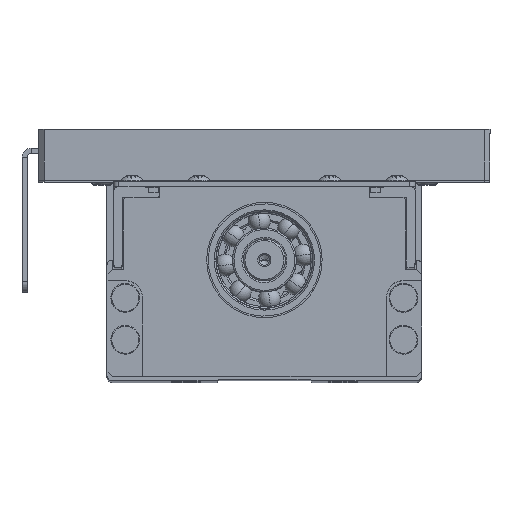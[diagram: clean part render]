
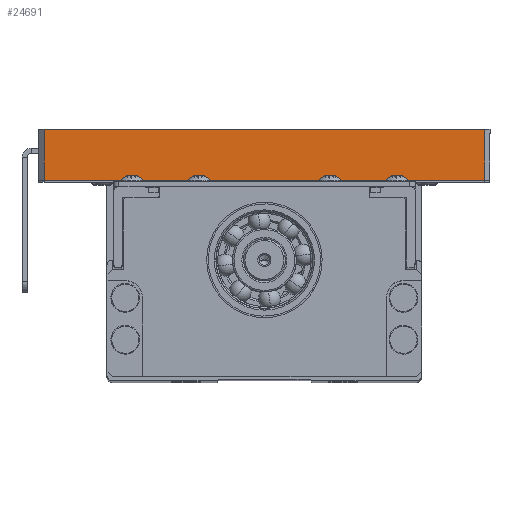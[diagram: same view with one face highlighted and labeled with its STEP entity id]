
A CAD part, top view. The second image highlights one B-rep face of the part: STEP entity #24691.
In plain terms, the highlighted planar face has unit normal (0, 0, 1).
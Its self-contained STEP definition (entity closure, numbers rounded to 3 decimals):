
#1 = PLANE ( 'NONE',  #92042 ) ;
#3241 = DIRECTION ( 'NONE',  ( 0., -1., 0. ) ) ;
#3656 = VECTOR ( 'NONE', #43587, 1000. ) ;
#9210 = LINE ( 'NONE', #82652, #42433 ) ;
#13910 = CARTESIAN_POINT ( 'NONE',  ( 43., 49., 40.75 ) ) ;
#14754 = ORIENTED_EDGE ( 'NONE', *, *, #68556, .T. ) ;
#14863 = EDGE_CURVE ( 'NONE', #35901, #75936, #54792, .T. ) ;
#22355 = FACE_OUTER_BOUND ( 'NONE', #45309, .T. ) ;
#24691 = ADVANCED_FACE ( 'NONE', ( #22355 ), #1, .T. ) ;
#24919 = CARTESIAN_POINT ( 'NONE',  ( 42., 49., 40.75 ) ) ;
#30961 = DIRECTION ( 'NONE',  ( 0., 1., 0. ) ) ;
#34872 = VECTOR ( 'NONE', #3241, 1000. ) ;
#35901 = VERTEX_POINT ( 'NONE', #87853 ) ;
#40198 = LINE ( 'NONE', #69882, #34872 ) ;
#40860 = CARTESIAN_POINT ( 'NONE',  ( -42., 49., 40.75 ) ) ;
#42433 = VECTOR ( 'NONE', #43900, 1000. ) ;
#43587 = DIRECTION ( 'NONE',  ( 1., 0., 0. ) ) ;
#43900 = DIRECTION ( 'NONE',  ( -1., 0., 0. ) ) ;
#45309 = EDGE_LOOP ( 'NONE', ( #47573, #81654, #69276, #14754 ) ) ;
#46731 = VECTOR ( 'NONE', #30961, 1000. ) ;
#47573 = ORIENTED_EDGE ( 'NONE', *, *, #87930, .F. ) ;
#48333 = VERTEX_POINT ( 'NONE', #40860 ) ;
#51362 = LINE ( 'NONE', #13910, #3656 ) ;
#54792 = LINE ( 'NONE', #91243, #46731 ) ;
#67627 = EDGE_CURVE ( 'NONE', #48333, #75936, #51362, .T. ) ;
#68556 = EDGE_CURVE ( 'NONE', #48333, #82246, #40198, .T. ) ;
#69276 = ORIENTED_EDGE ( 'NONE', *, *, #67627, .F. ) ;
#69882 = CARTESIAN_POINT ( 'NONE',  ( -42., 39.3, 40.75 ) ) ;
#75936 = VERTEX_POINT ( 'NONE', #24919 ) ;
#77647 = CARTESIAN_POINT ( 'NONE',  ( -42., 39.3, 40.75 ) ) ;
#81654 = ORIENTED_EDGE ( 'NONE', *, *, #14863, .T. ) ;
#82162 = DIRECTION ( 'NONE',  ( 1., 0., 0. ) ) ;
#82246 = VERTEX_POINT ( 'NONE', #77647 ) ;
#82652 = CARTESIAN_POINT ( 'NONE',  ( -43., 39.3, 40.75 ) ) ;
#87853 = CARTESIAN_POINT ( 'NONE',  ( 42., 39.3, 40.75 ) ) ;
#87930 = EDGE_CURVE ( 'NONE', #35901, #82246, #9210, .T. ) ;
#89440 = DIRECTION ( 'NONE',  ( 0., 0., 1. ) ) ;
#90413 = CARTESIAN_POINT ( 'NONE',  ( 0., 49., 40.75 ) ) ;
#91243 = CARTESIAN_POINT ( 'NONE',  ( 42., 49., 40.75 ) ) ;
#92042 = AXIS2_PLACEMENT_3D ( 'NONE', #90413, #89440, #82162 ) ;
